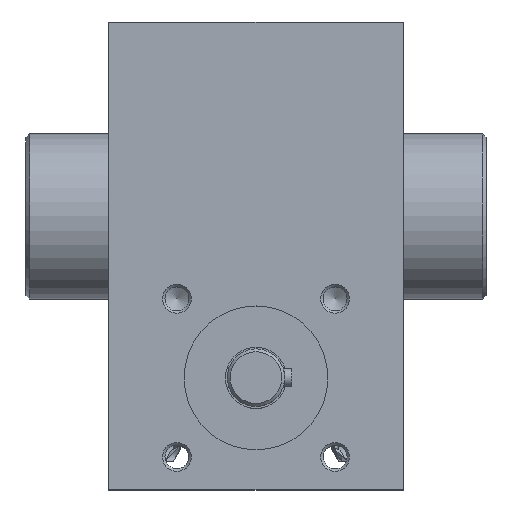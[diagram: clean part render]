
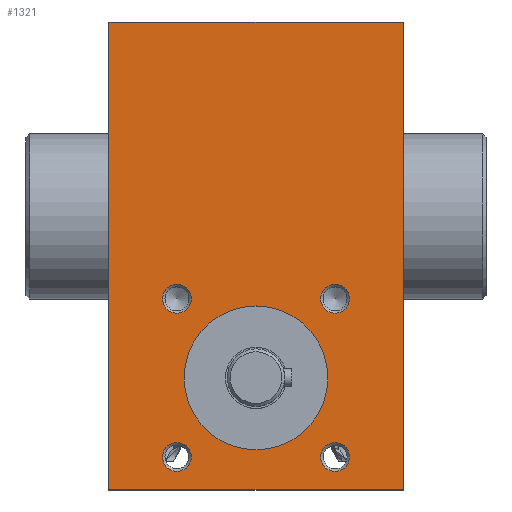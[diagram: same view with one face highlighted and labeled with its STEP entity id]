
A CAD part, top view. The second image highlights one B-rep face of the part: STEP entity #1321.
In plain terms, the highlighted planar face has unit normal (0, 0, 1).
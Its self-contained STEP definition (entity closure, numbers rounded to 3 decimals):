
#171=FACE_BOUND('',#484,.T.);
#172=FACE_BOUND('',#485,.T.);
#173=FACE_BOUND('',#486,.T.);
#174=FACE_BOUND('',#487,.T.);
#175=FACE_BOUND('',#488,.T.);
#220=CIRCLE('',#1387,4.);
#242=CIRCLE('',#1427,4.);
#246=CIRCLE('',#1434,4.);
#253=CIRCLE('',#1446,4.);
#261=CIRCLE('',#1465,20.);
#346=FACE_OUTER_BOUND('',#483,.T.);
#483=EDGE_LOOP('',(#1087,#1088,#1089,#1090));
#484=EDGE_LOOP('',(#1091));
#485=EDGE_LOOP('',(#1092));
#486=EDGE_LOOP('',(#1093));
#487=EDGE_LOOP('',(#1094));
#488=EDGE_LOOP('',(#1095));
#576=LINE('',#1988,#616);
#589=LINE('',#2069,#629);
#592=LINE('',#2077,#632);
#594=LINE('',#2108,#634);
#616=VECTOR('',#1568,130.);
#629=VECTOR('',#1635,82.);
#632=VECTOR('',#1642,130.);
#634=VECTOR('',#1680,82.);
#656=VERTEX_POINT('',#1985);
#657=VERTEX_POINT('',#1987);
#671=VERTEX_POINT('',#2024);
#686=VERTEX_POINT('',#2067);
#689=VERTEX_POINT('',#2075);
#703=VERTEX_POINT('',#2116);
#706=VERTEX_POINT('',#2129);
#713=VERTEX_POINT('',#2158);
#725=VERTEX_POINT('',#2275);
#779=EDGE_CURVE('',#657,#656,#576,.F.);
#794=EDGE_CURVE('',#671,#671,#220,.F.);
#812=EDGE_CURVE('',#656,#686,#589,.F.);
#816=EDGE_CURVE('',#686,#689,#592,.F.);
#829=EDGE_CURVE('',#689,#657,#594,.F.);
#832=EDGE_CURVE('',#703,#703,#242,.F.);
#837=EDGE_CURVE('',#706,#706,#246,.F.);
#848=EDGE_CURVE('',#713,#713,#253,.F.);
#862=EDGE_CURVE('',#725,#725,#261,.F.);
#1087=ORIENTED_EDGE('',*,*,#779,.T.);
#1088=ORIENTED_EDGE('',*,*,#812,.T.);
#1089=ORIENTED_EDGE('',*,*,#816,.T.);
#1090=ORIENTED_EDGE('',*,*,#829,.T.);
#1091=ORIENTED_EDGE('',*,*,#794,.T.);
#1092=ORIENTED_EDGE('',*,*,#832,.T.);
#1093=ORIENTED_EDGE('',*,*,#862,.T.);
#1094=ORIENTED_EDGE('',*,*,#837,.T.);
#1095=ORIENTED_EDGE('',*,*,#848,.T.);
#1254=PLANE('',#1479);
#1321=ADVANCED_FACE('',(#346,#171,#172,#173,#174,#175),#1254,.T.);
#1387=AXIS2_PLACEMENT_3D('',#2025,#1597,#1598);
#1427=AXIS2_PLACEMENT_3D('',#2117,#1691,#1692);
#1434=AXIS2_PLACEMENT_3D('',#2130,#1705,#1706);
#1446=AXIS2_PLACEMENT_3D('',#2159,#1730,#1731);
#1465=AXIS2_PLACEMENT_3D('',#2276,#1768,#1769);
#1479=AXIS2_PLACEMENT_3D('',#2329,#1798,#1799);
#1568=DIRECTION('',(0.,1.,0.));
#1597=DIRECTION('center_axis',(0.,0.,1.));
#1598=DIRECTION('ref_axis',(1.,0.,0.));
#1635=DIRECTION('',(-1.,0.,0.));
#1642=DIRECTION('',(0.,-1.,0.));
#1680=DIRECTION('',(1.,0.,0.));
#1691=DIRECTION('center_axis',(0.,0.,1.));
#1692=DIRECTION('ref_axis',(1.,0.,0.));
#1705=DIRECTION('center_axis',(0.,0.,1.));
#1706=DIRECTION('ref_axis',(1.,0.,0.));
#1730=DIRECTION('center_axis',(0.,0.,1.));
#1731=DIRECTION('ref_axis',(1.,0.,0.));
#1768=DIRECTION('center_axis',(0.,0.,1.));
#1769=DIRECTION('ref_axis',(1.,0.,0.));
#1798=DIRECTION('center_axis',(0.,0.,1.));
#1799=DIRECTION('ref_axis',(1.,0.,0.));
#1985=CARTESIAN_POINT('',(0.,-76.,52.5));
#1987=CARTESIAN_POINT('',(0.,54.,52.5));
#1988=CARTESIAN_POINT('',(0.,0.,52.5));
#2024=CARTESIAN_POINT('',(67.,-23.,52.5));
#2025=CARTESIAN_POINT('Origin',(63.,-23.,52.5));
#2067=CARTESIAN_POINT('',(82.,-76.,52.5));
#2069=CARTESIAN_POINT('',(0.,-76.,52.5));
#2075=CARTESIAN_POINT('',(82.,54.,52.5));
#2077=CARTESIAN_POINT('',(82.,0.,52.5));
#2108=CARTESIAN_POINT('',(0.,54.,52.5));
#2116=CARTESIAN_POINT('',(23.,-67.,52.5));
#2117=CARTESIAN_POINT('Origin',(19.,-67.,52.5));
#2129=CARTESIAN_POINT('',(67.,-67.,52.5));
#2130=CARTESIAN_POINT('Origin',(63.,-67.,52.5));
#2158=CARTESIAN_POINT('',(23.,-23.,52.5));
#2159=CARTESIAN_POINT('Origin',(19.,-23.,52.5));
#2275=CARTESIAN_POINT('',(61.,-45.,52.5));
#2276=CARTESIAN_POINT('Origin',(41.,-45.,52.5));
#2329=CARTESIAN_POINT('Origin',(0.,0.,52.5));
